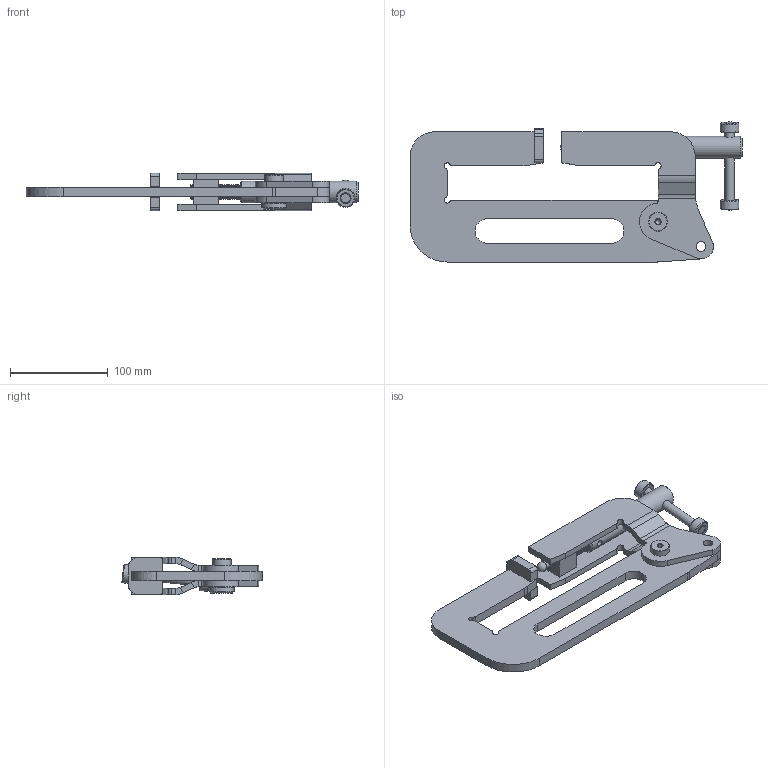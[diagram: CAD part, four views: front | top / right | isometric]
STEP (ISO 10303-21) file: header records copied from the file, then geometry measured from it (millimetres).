
FILE_DESCRIPTION (( 'STEP AP214' ), '1' );
FILE_NAME ('OZ05BHC.STEP', '2024-06-17T15:42:12', ( '' ), ( '' ), 'SwSTEP 2.0', 'SolidWorks 2023', '' );
FILE_SCHEMA (( 'AUTOMOTIVE_DESIGN' ));
Length unit declared in the file: inch
Products named in the file (12): BHC05007; OZ05BHC; BHC05004; BHC05006; BHC05002; BHC05010; BHC05008; BHC05100; BHC05011; BHC05001; BHC05009; BHC05005
Assembly tree (12 placements, depth 3):
  OZ05BHC
    BHC05001
    BHC05002
    BHC05011
    BHC05005
    BHC05006
    BHC05004
    BHC05007
    BHC05100
      BHC05010
      BHC05009
      BHC05008  x2
Bounding box: 340.02 x 143.43 x 38.1 mm (x, y, z)
Volume: 396151.9 mm3; surface area: 130363.1 mm2
Topology: 11 solids, 11 shells, 195 faces, 472 edges, 298 vertices
Faces by surface type: plane 92, cylinder 77, cone 16, bspline 7, torus 2, sphere 1
Full cylindrical faces by diameter (mm): 5.105 x1, 6.35 x3, 7.62 x1, 9.525 x3, 9.906 x3, 10.033 x1, 12.446 x1, 12.7 x1, 13.492 x1, 19.05 x3, 19.431 x3, 22.225 x1, 25.4 x1
Entity records: 11041 total; most frequent: CARTESIAN_POINT 6364, DIRECTION 920, ORIENTED_EDGE 814, EDGE_CURVE 407, AXIS2_PLACEMENT_3D 351, VERTEX_POINT 279, EDGE_LOOP 252, VECTOR 218
